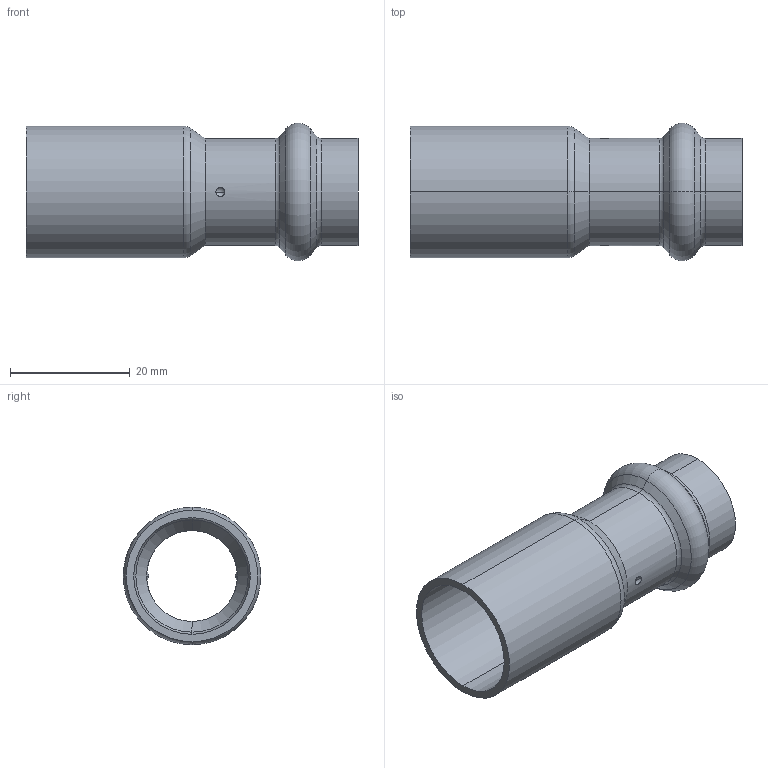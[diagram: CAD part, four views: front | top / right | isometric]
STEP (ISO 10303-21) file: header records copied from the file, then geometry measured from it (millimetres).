
FILE_DESCRIPTION (( 'STEP AP203' ), '1' );
FILE_NAME ('SP5243 22-15.STEP', '2017-04-24T09:04:11', ( '' ), ( '' ), 'SwSTEP 2.0', 'SolidWorks 2016', '' );
FILE_SCHEMA (( 'CONFIG_CONTROL_DESIGN' ));
Length unit declared in the file: millimetre
Products named in the file (1): SP5243 22-15
Bounding box: 55.5 x 23 x 23 mm (x, y, z)
Volume: 4542.6 mm3; surface area: 7105.3 mm2
Topology: 1 solids, 1 shells, 50 faces, 100 edges, 56 vertices
Faces by surface type: torus 16, cylinder 12, cone 12, sphere 8, plane 2
Entity records: 1477 total; most frequent: CARTESIAN_POINT 323, DIRECTION 262, ORIENTED_EDGE 200, AXIS2_PLACEMENT_3D 119, EDGE_CURVE 100, CIRCLE 68, VERTEX_POINT 56, EDGE_LOOP 56
